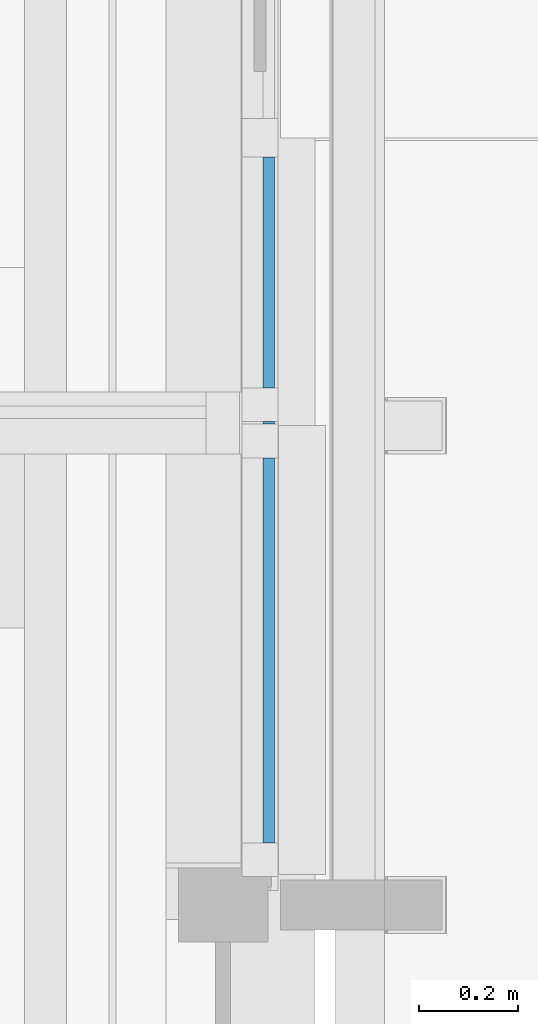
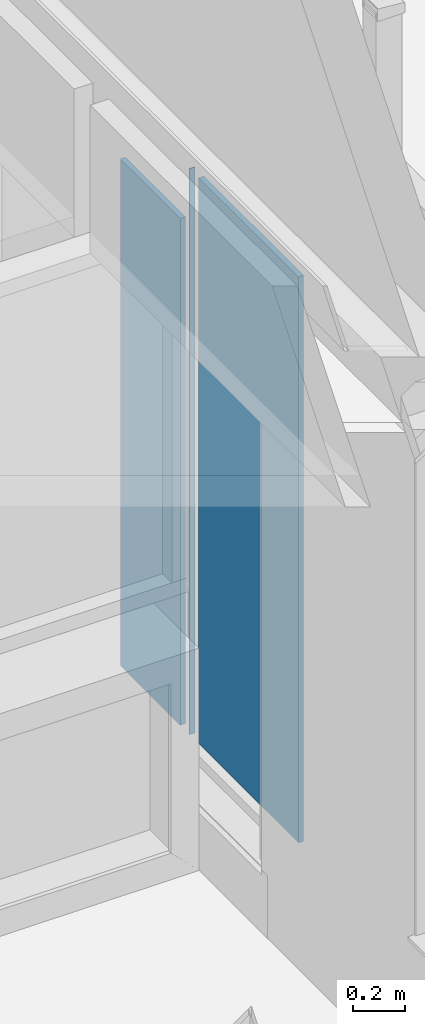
# One storey, part 19 of 118: 3 plates, 1 element without a shape of its own.
"""IFC2X3 building model written with IfcOpenShell, lengths in millimetres."""

from ifc_helpers import new_model, entity, si_unit, converted_unit, derived_unit, direction, frame, frame_2d, origin, origin_2d_with_axis, place, context, subcontext, project, spatial, rectangle, extrude, source, transform, mapped, material, type_object, type_shapes, element, aggregate, save


model = new_model("IFC2X3")

# Units and contexts
model_context = context("Model", 3, precision=0.01, world=origin(), true_north=direction((6.123031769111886e-17, 1.0)))
plan_context = context("Plan", 3, precision=0.01, world=origin(), true_north=direction((6.123031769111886e-17, 1.0)))
body_context = subcontext(model_context, "Body", "Model", "MODEL_VIEW")
ifc_project = project(units=[si_unit("LENGTHUNIT", "METRE", prefix="MILLI"), si_unit("AREAUNIT", "SQUARE_METRE"), si_unit("VOLUMEUNIT", "CUBIC_METRE"), converted_unit("PLANEANGLEUNIT", "DEGREE", entity("IfcRatioMeasure", 0.017453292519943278), si_unit("PLANEANGLEUNIT", "RADIAN"), dimensions=[0, 0, 0, 0, 0, 0, 0]), si_unit("MASSUNIT", "GRAM", prefix="KILO"), derived_unit("MASSDENSITYUNIT", [(si_unit("MASSUNIT", "GRAM", prefix="KILO"), 1), (si_unit("LENGTHUNIT", "METRE"), -3)]), derived_unit("IONCONCENTRATIONUNIT", [(si_unit("MASSUNIT", "GRAM", prefix="KILO"), 1), (si_unit("LENGTHUNIT", "METRE"), -3)]), derived_unit("MOMENTOFINERTIAUNIT", [(si_unit("LENGTHUNIT", "METRE"), 4)]), si_unit("TIMEUNIT", "SECOND"), si_unit("FREQUENCYUNIT", "HERTZ"), si_unit("THERMODYNAMICTEMPERATUREUNIT", "DEGREE_CELSIUS"), derived_unit("THERMALTRANSMITTANCEUNIT", [(si_unit("MASSUNIT", "GRAM", prefix="KILO"), 1), (si_unit("THERMODYNAMICTEMPERATUREUNIT", "KELVIN"), -1), (si_unit("TIMEUNIT", "SECOND"), -3)]), derived_unit("THERMALCONDUCTANCEUNIT", [(si_unit("MASSUNIT", "GRAM", prefix="KILO"), 1), (si_unit("THERMODYNAMICTEMPERATUREUNIT", "KELVIN"), -1), (si_unit("TIMEUNIT", "SECOND"), -3), (si_unit("LENGTHUNIT", "METRE"), 1)]), derived_unit("VOLUMETRICFLOWRATEUNIT", [(si_unit("LENGTHUNIT", "METRE"), 3), (si_unit("TIMEUNIT", "SECOND"), -1)]), derived_unit("MASSFLOWRATEUNIT", [(si_unit("MASSUNIT", "GRAM", prefix="KILO"), 1), (si_unit("TIMEUNIT", "SECOND"), -1)]), derived_unit("ROTATIONALFREQUENCYUNIT", [(si_unit("TIMEUNIT", "SECOND"), -1)]), si_unit("ELECTRICCURRENTUNIT", "AMPERE"), si_unit("ELECTRICVOLTAGEUNIT", "VOLT"), si_unit("POWERUNIT", "WATT"), si_unit("FORCEUNIT", "NEWTON", prefix="KILO"), si_unit("ILLUMINANCEUNIT", "LUX"), si_unit("LUMINOUSFLUXUNIT", "LUMEN"), si_unit("LUMINOUSINTENSITYUNIT", "CANDELA"), derived_unit("USERDEFINED", [(si_unit("MASSUNIT", "GRAM", prefix="KILO"), -1), (si_unit("LENGTHUNIT", "METRE"), -2), (si_unit("TIMEUNIT", "SECOND"), 3), (si_unit("LUMINOUSFLUXUNIT", "LUMEN"), 1)]), derived_unit("USERDEFINED", [(si_unit("MASSUNIT", "GRAM", prefix="KILO"), 1), (si_unit("TIMEUNIT", "SECOND"), -3), (si_unit("LENGTHUNIT", "METRE"), 3), (si_unit("ELECTRICCURRENTUNIT", "AMPERE"), -2)]), derived_unit("SOUNDPOWERUNIT", [(si_unit("MASSUNIT", "GRAM", prefix="KILO"), 1), (si_unit("TIMEUNIT", "SECOND"), -3), (si_unit("LENGTHUNIT", "METRE"), 2)]), derived_unit("SOUNDPRESSUREUNIT", [(si_unit("MASSUNIT", "GRAM", prefix="KILO"), 1), (si_unit("LENGTHUNIT", "METRE"), -1), (si_unit("TIMEUNIT", "SECOND"), -2)]), derived_unit("LINEARVELOCITYUNIT", [(si_unit("LENGTHUNIT", "METRE"), 1), (si_unit("TIMEUNIT", "SECOND"), -1)]), si_unit("PRESSUREUNIT", "PASCAL"), derived_unit("USERDEFINED", [(si_unit("MASSUNIT", "GRAM", prefix="KILO"), 1), (si_unit("LENGTHUNIT", "METRE"), -2), (si_unit("TIMEUNIT", "SECOND"), -2)]), derived_unit("LINEARFORCEUNIT", [(si_unit("MASSUNIT", "GRAM", prefix="KILO"), 1), (si_unit("TIMEUNIT", "SECOND"), -2)]), derived_unit("PLANARFORCEUNIT", [(si_unit("MASSUNIT", "GRAM", prefix="KILO"), 1), (si_unit("LENGTHUNIT", "METRE"), -1), (si_unit("TIMEUNIT", "SECOND"), -2)]), derived_unit("SPECIFICHEATCAPACITYUNIT", [(si_unit("THERMODYNAMICTEMPERATUREUNIT", "KELVIN"), -1), (si_unit("LENGTHUNIT", "METRE"), 2), (si_unit("TIMEUNIT", "SECOND"), -2)]), derived_unit("HEATINGVALUEUNIT", [(si_unit("LENGTHUNIT", "METRE"), 2), (si_unit("TIMEUNIT", "SECOND"), -2)]), derived_unit("VAPORPERMEABILITYUNIT", [(si_unit("LENGTHUNIT", "METRE"), -1), (si_unit("TIMEUNIT", "SECOND"), 1)]), derived_unit("DYNAMICVISCOSITYUNIT", [(si_unit("MASSUNIT", "GRAM", prefix="KILO"), 1), (si_unit("TIMEUNIT", "SECOND"), -1), (si_unit("LENGTHUNIT", "METRE"), -1)]), derived_unit("THERMALEXPANSIONCOEFFICIENTUNIT", [(si_unit("THERMODYNAMICTEMPERATUREUNIT", "KELVIN"), -1)]), derived_unit("MODULUSOFELASTICITYUNIT", [(si_unit("MASSUNIT", "GRAM", prefix="KILO"), 1), (si_unit("LENGTHUNIT", "METRE"), -1), (si_unit("TIMEUNIT", "SECOND"), -2)]), derived_unit("ISOTHERMALMOISTURECAPACITYUNIT", [(si_unit("LENGTHUNIT", "METRE"), 3), (si_unit("MASSUNIT", "GRAM", prefix="KILO"), -1)]), derived_unit("MOISTUREDIFFUSIVITYUNIT", [(si_unit("TIMEUNIT", "SECOND"), -1), (si_unit("LENGTHUNIT", "METRE"), 2)])], contexts=[model_context, plan_context])

# Site, building, storey
site_placement = place(None, origin())
site = spatial("IfcSite", under=ifc_project, at=site_placement, Name="Locatie", CompositionType="ELEMENT")
building_placement = place(site_placement, origin())
building = spatial("IfcBuilding", under=site, at=building_placement, Name="Bouwwerk", CompositionType="ELEMENT")
storey_placement = place(building_placement, frame((0.0, 0.0, 7800.0)))
storey = spatial("IfcBuildingStorey", under=building, at=storey_placement, Name="02 tweede verdieping", CompositionType="ELEMENT", Elevation=7800.000000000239)

# Curtain wall, plates
curtain_wall_type = type_object("IfcCurtainWallType", Name="Curtain Wall:NLRS_21_CW_Ontwerpkozijn_aluminium_RT72", PredefinedType="NOTDEFINED")
curtain_wall_placement = place(storey_placement, frame((0.0, 0.0, -7800.0)))
curtain_wall = element("IfcCurtainWall", 1, at=curtain_wall_placement, inside=storey, type_object=curtain_wall_type, Name="Curtain Wall:NLRS_21_CW_Ontwerpkozijn_aluminium_RT72", ObjectType="Curtain Wall:NLRS_21_CW_Ontwerpkozijn_aluminium_RT72")
ifc_material = material(Name="ISR_Glas")
plate_type_1 = type_object("IfcPlateType", Name="System Panel:RT72_glas", PredefinedType="CURTAIN_PANEL", material=ifc_material)
shared_shape_1 = source(origin(), body_context, "Body", "SweptSolid", [
    extrude(rectangle(XDim=2670.999999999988, YDim=4.999999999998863, at=frame_2d((-365.50000000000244, 0.0), x_axis=(1.0, 0.0))), frame((0.0, 42.0, 1701.0), z_axis=(0.0, 1.0, 0.0), x_axis=(0.0, 0.0, 1.0)), (0.0, 0.0, 1.0), 23.0),
])
type_shapes(plate_type_1, [shared_shape_1])
plate_1_placement = place(curtain_wall_placement, frame((34753.0, 20687.49999997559, 8124.0), z_axis=(0.0, 0.0, 1.0), x_axis=(0.0, -1.0, 0.0)))
plate_1 = element("IfcPlate", 2, at=plate_1_placement, type_object=plate_type_1, material=ifc_material, Name="System Panel:RT72_glas", ObjectType="System Panel:RT72_glas", context=body_context, shape_type="MappedRepresentation", body=[
    mapped(shared_shape_1, transform((0.0, 0.0, 0.0), scale=1.0)),
])
plate_type_2 = type_object("IfcPlateType", Name="System Panel:RT72_glas", PredefinedType="CURTAIN_PANEL", material=ifc_material)
shared_shape_2 = source(origin(), body_context, "Body", "SweptSolid", [
    extrude(rectangle(XDim=23.0, YDim=464.000000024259, at=origin_2d_with_axis()), frame((0.0, 53.49999999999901, 0.0), z_axis=(0.0, 0.0, 1.0), x_axis=(0.0, 1.0, 0.0)), (0.0, 0.0, 1.0), 2393.000000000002),
])
type_shapes(plate_type_2, [shared_shape_2])
plate_2_placement = place(curtain_wall_placement, frame((34753.0, 20990.0, 8124.0), z_axis=(0.0, 0.0, 1.0), x_axis=(0.0, -1.0, 0.0)))
plate_2 = element("IfcPlate", 3, at=plate_2_placement, type_object=plate_type_2, material=ifc_material, Name="System Panel:RT72_glas", ObjectType="System Panel:RT72_glas", context=body_context, shape_type="MappedRepresentation", body=[
    mapped(shared_shape_2, transform((0.0, 0.0, 0.0), scale=1.0)),
])
plate_type_3 = type_object("IfcPlateType", Name="System Panel:RT72_glas", PredefinedType="CURTAIN_PANEL", material=ifc_material)
shared_shape_3 = source(origin(), body_context, "Body", "SweptSolid", [
    extrude(rectangle(XDim=2670.999999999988, YDim=774.0000000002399, at=frame_2d((-365.50000000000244, 0.0), x_axis=(1.0, 0.0))), frame((0.0, 42.0, 1701.0), z_axis=(0.0, 1.0, 0.0), x_axis=(0.0, 0.0, 1.0)), (0.0, 0.0, 1.0), 23.0),
])
type_shapes(plate_type_3, [shared_shape_3])
plate_3_placement = place(curtain_wall_placement, frame((34753.0, 20230.0, 8124.0), z_axis=(0.0, 0.0, 1.0), x_axis=(0.0, -1.0, 0.0)))
plate_3 = element("IfcPlate", 4, at=plate_3_placement, type_object=plate_type_3, material=ifc_material, Name="System Panel:RT72_glas", ObjectType="System Panel:RT72_glas", context=body_context, shape_type="MappedRepresentation", body=[
    mapped(shared_shape_3, transform((0.0, 0.0, 0.0), scale=1.0)),
])
aggregate(curtain_wall, [plate_2, plate_1, plate_3])

save(model, "model.ifc")
